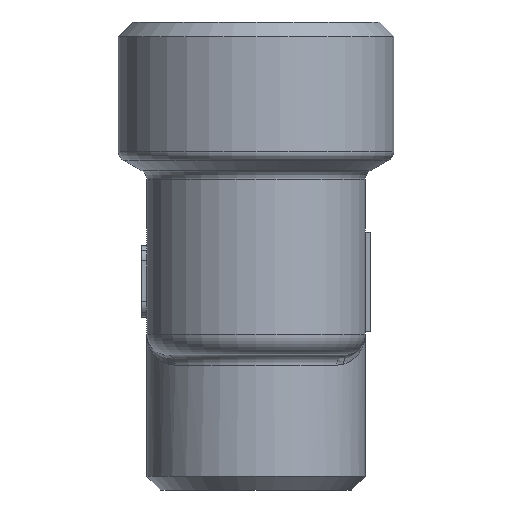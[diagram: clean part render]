
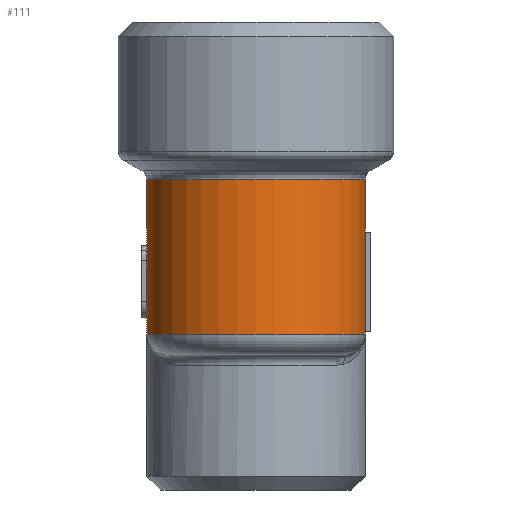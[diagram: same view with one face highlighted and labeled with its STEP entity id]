
A CAD part, front view. The second image highlights one B-rep face of the part: STEP entity #111.
In plain terms, the highlighted cylindrical face has radius 10.5 mm (diameter 21 mm), a full revolution.
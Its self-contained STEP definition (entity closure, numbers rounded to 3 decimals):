
#111=ADVANCED_FACE('',(#606,#608),#610,.T.);
#606=FACE_BOUND('',#607,.T.);
#607=EDGE_LOOP('',(#2097,#2098,#2099,#2100,#2101,#2102,#2103));
#608=FACE_OUTER_BOUND('',#609,.T.);
#609=EDGE_LOOP('',(#2104));
#610=CYLINDRICAL_SURFACE('',#611,10.5);
#611=AXIS2_PLACEMENT_3D('',#612,#613,#614);
#612=CARTESIAN_POINT('',(0.,-30.,13.));
#613=DIRECTION('',(0.,0.,1.));
#614=DIRECTION('',(-1.,0.,0.));
#2097=ORIENTED_EDGE('',*,*,#2608,.F.);
#2098=ORIENTED_EDGE('',*,*,#2609,.T.);
#2099=ORIENTED_EDGE('',*,*,#2610,.T.);
#2100=ORIENTED_EDGE('',*,*,#2611,.F.);
#2101=ORIENTED_EDGE('',*,*,#2421,.F.);
#2102=ORIENTED_EDGE('',*,*,#2612,.T.);
#2103=ORIENTED_EDGE('',*,*,#2613,.T.);
#2104=ORIENTED_EDGE('',*,*,#2614,.F.);
#2421=EDGE_CURVE('',#2754,#2750,#2756,.T.);
#2608=EDGE_CURVE('',#3064,#3065,#3066,.T.);
#2609=EDGE_CURVE('',#3064,#3067,#3068,.T.);
#2610=EDGE_CURVE('',#3067,#3069,#3070,.T.);
#2611=EDGE_CURVE('',#2750,#3069,#3071,.F.);
#2612=EDGE_CURVE('',#2754,#3072,#3073,.T.);
#2613=EDGE_CURVE('',#3072,#3065,#3074,.T.);
#2614=EDGE_CURVE('',#3075,#3075,#3076,.F.);
#2750=VERTEX_POINT('',#3303);
#2754=VERTEX_POINT('',#3311);
#2756=LINE('',#3315,#3316);
#3064=VERTEX_POINT('',#4054);
#3065=VERTEX_POINT('',#4055);
#3066=B_SPLINE_CURVE_WITH_KNOTS('',3,
(#4056,#4057,#4058,#4059,#4060,#4061,#4062,#4063,#4064,#4065,#4066,#4067,#4068,#4069,
#4070,#4071,#4072,#4073),
.UNSPECIFIED.,.F.,.F.,
(4,1,1,1,1,1,1,1,1,1,1,1,1,1,1,4),
(0.,0.069,0.129,0.182,0.242,0.305,
0.381,0.457,0.544,0.622,0.7,
0.769,0.833,0.898,0.952,1.),
.UNSPECIFIED.);
#3067=VERTEX_POINT('',#4074);
#3068=CIRCLE('',#4075,10.5);
#3069=VERTEX_POINT('',#4079);
#3070=CIRCLE('',#4080,10.5);
#3071=B_SPLINE_CURVE_WITH_KNOTS('',3,
(#4084,#4085,#4086,#4087,#4088,#4089,#4090,#4091,#4092,#4093,#4094,#4095,#4096,#4097,
#4098,#4099,#4100,#4101),
.UNSPECIFIED.,.F.,.F.,
(4,1,1,1,1,1,1,1,1,1,1,1,1,1,1,4),
(0.,0.069,0.129,0.182,0.242,0.305,
0.381,0.457,0.544,0.622,0.7,
0.769,0.833,0.898,0.952,1.),
.UNSPECIFIED.);
#3072=VERTEX_POINT('',#4102);
#3073=CIRCLE('',#4103,10.5);
#3074=LINE('',#4107,#4108);
#3075=VERTEX_POINT('',#4110);
#3076=CIRCLE('',#4111,10.5);
#3303=CARTESIAN_POINT('',(-10.5,-30.,25.));
#3311=CARTESIAN_POINT('',(-10.5,-30.,15.));
#3315=CARTESIAN_POINT('',(-10.5,-30.,15.));
#3316=VECTOR('',#3317,1.);
#3317=DIRECTION('',(0.,0.,1.));
#4054=CARTESIAN_POINT('',(7.761,-22.928,28.));
#4055=CARTESIAN_POINT('',(10.5,-30.,25.));
#4056=CARTESIAN_POINT('',(7.761,-22.928,28.));
#4057=CARTESIAN_POINT('',(7.894,-23.074,28.001));
#4058=CARTESIAN_POINT('',(8.134,-23.353,27.98));
#4059=CARTESIAN_POINT('',(8.448,-23.759,27.91));
#4060=CARTESIAN_POINT('',(8.724,-24.151,27.814));
#4061=CARTESIAN_POINT('',(8.982,-24.555,27.691));
#4062=CARTESIAN_POINT('',(9.248,-25.017,27.527));
#4063=CARTESIAN_POINT('',(9.504,-25.523,27.323));
#4064=CARTESIAN_POINT('',(9.752,-26.091,27.072));
#4065=CARTESIAN_POINT('',(9.964,-26.667,26.796));
#4066=CARTESIAN_POINT('',(10.14,-27.252,26.5));
#4067=CARTESIAN_POINT('',(10.271,-27.795,26.215));
#4068=CARTESIAN_POINT('',(10.366,-28.305,25.94));
#4069=CARTESIAN_POINT('',(10.433,-28.784,25.678));
#4070=CARTESIAN_POINT('',(10.475,-29.229,25.43));
#4071=CARTESIAN_POINT('',(10.496,-29.636,25.204));
#4072=CARTESIAN_POINT('',(10.5,-29.884,25.065));
#4073=CARTESIAN_POINT('',(10.5,-30.,25.));
#4074=CARTESIAN_POINT('',(0.,-19.5,28.));
#4075=AXIS2_PLACEMENT_3D('',#4076,#4077,#4078);
#4076=CARTESIAN_POINT('',(0.,-30.,28.));
#4077=DIRECTION('',(0.,0.,1.));
#4078=DIRECTION('',(0.739,0.674,0.));
#4079=CARTESIAN_POINT('',(-7.761,-22.928,28.));
#4080=AXIS2_PLACEMENT_3D('',#4081,#4082,#4083);
#4081=CARTESIAN_POINT('',(0.,-30.,28.));
#4082=DIRECTION('',(0.,0.,1.));
#4083=DIRECTION('',(0.,1.,0.));
#4084=CARTESIAN_POINT('',(-7.761,-22.928,28.));
#4085=CARTESIAN_POINT('',(-7.894,-23.074,28.001));
#4086=CARTESIAN_POINT('',(-8.134,-23.353,27.98));
#4087=CARTESIAN_POINT('',(-8.448,-23.759,27.91));
#4088=CARTESIAN_POINT('',(-8.724,-24.151,27.814));
#4089=CARTESIAN_POINT('',(-8.982,-24.555,27.691));
#4090=CARTESIAN_POINT('',(-9.248,-25.017,27.527));
#4091=CARTESIAN_POINT('',(-9.504,-25.523,27.323));
#4092=CARTESIAN_POINT('',(-9.752,-26.091,27.072));
#4093=CARTESIAN_POINT('',(-9.964,-26.667,26.796));
#4094=CARTESIAN_POINT('',(-10.14,-27.252,26.5));
#4095=CARTESIAN_POINT('',(-10.271,-27.795,26.215));
#4096=CARTESIAN_POINT('',(-10.366,-28.305,25.94));
#4097=CARTESIAN_POINT('',(-10.433,-28.784,25.678));
#4098=CARTESIAN_POINT('',(-10.475,-29.229,25.43));
#4099=CARTESIAN_POINT('',(-10.496,-29.636,25.204));
#4100=CARTESIAN_POINT('',(-10.5,-29.884,25.065));
#4101=CARTESIAN_POINT('',(-10.5,-30.,25.));
#4102=CARTESIAN_POINT('',(10.5,-30.,15.));
#4103=AXIS2_PLACEMENT_3D('',#4104,#4105,#4106);
#4104=CARTESIAN_POINT('',(0.,-30.,15.));
#4105=DIRECTION('',(0.,0.,1.));
#4106=DIRECTION('',(-1.,0.,0.));
#4107=CARTESIAN_POINT('',(10.5,-30.,15.));
#4108=VECTOR('',#4109,1.);
#4109=DIRECTION('',(0.,0.,1.));
#4110=CARTESIAN_POINT('',(0.,-19.5,29.835));
#4111=AXIS2_PLACEMENT_3D('',#4112,#4113,#4114);
#4112=CARTESIAN_POINT('',(0.,-30.,29.835));
#4113=DIRECTION('',(0.,0.,-1.));
#4114=DIRECTION('',(0.,1.,0.));
